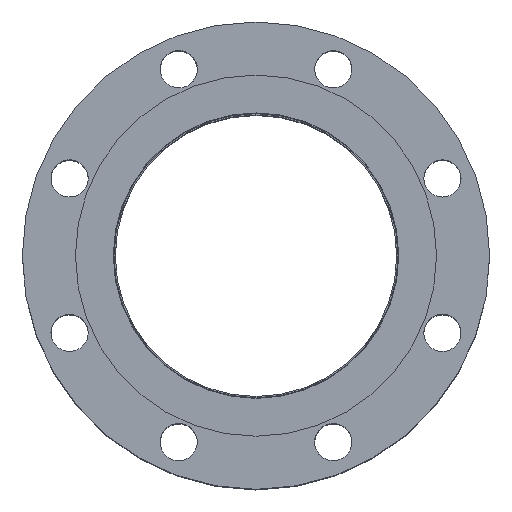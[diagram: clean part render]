
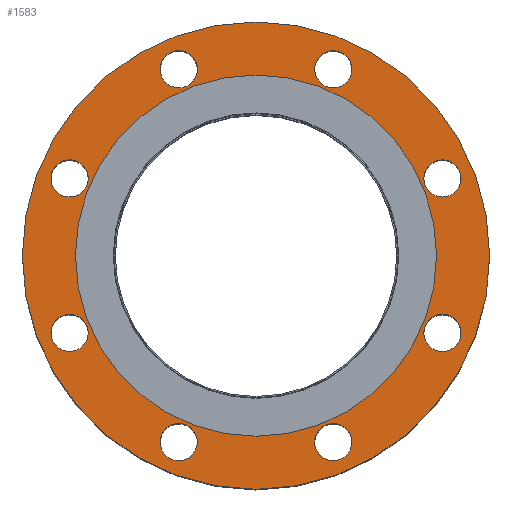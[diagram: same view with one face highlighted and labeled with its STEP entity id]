
A CAD part, top view. The second image highlights one B-rep face of the part: STEP entity #1583.
In plain terms, the highlighted planar face has unit normal (0, 0, 1).
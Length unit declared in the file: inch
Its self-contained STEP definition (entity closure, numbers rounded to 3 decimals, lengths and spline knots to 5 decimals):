
#84=FACE_BOUND('',#411,.T.);
#85=FACE_BOUND('',#412,.T.);
#86=FACE_BOUND('',#413,.T.);
#87=FACE_BOUND('',#414,.T.);
#88=FACE_BOUND('',#415,.T.);
#89=FACE_BOUND('',#416,.T.);
#90=FACE_BOUND('',#417,.T.);
#91=FACE_BOUND('',#418,.T.);
#92=FACE_BOUND('',#419,.T.);
#150=PLANE('',#1788);
#273=FACE_OUTER_BOUND('',#410,.T.);
#410=EDGE_LOOP('',(#1213));
#411=EDGE_LOOP('',(#1214));
#412=EDGE_LOOP('',(#1215));
#413=EDGE_LOOP('',(#1216));
#414=EDGE_LOOP('',(#1217));
#415=EDGE_LOOP('',(#1218));
#416=EDGE_LOOP('',(#1219));
#417=EDGE_LOOP('',(#1220));
#418=EDGE_LOOP('',(#1221));
#419=EDGE_LOOP('',(#1222));
#615=CIRCLE('',#1743,0.4375);
#617=CIRCLE('',#1746,0.4375);
#619=CIRCLE('',#1749,0.4375);
#621=CIRCLE('',#1752,0.4375);
#623=CIRCLE('',#1755,0.4375);
#625=CIRCLE('',#1758,0.4375);
#627=CIRCLE('',#1761,0.4375);
#629=CIRCLE('',#1764,0.4375);
#642=CIRCLE('',#1783,4.25);
#644=CIRCLE('',#1787,5.5);
#803=VERTEX_POINT('',#2758);
#805=VERTEX_POINT('',#2764);
#807=VERTEX_POINT('',#2770);
#809=VERTEX_POINT('',#2776);
#811=VERTEX_POINT('',#2782);
#813=VERTEX_POINT('',#2788);
#815=VERTEX_POINT('',#2794);
#817=VERTEX_POINT('',#2800);
#828=VERTEX_POINT('',#2832);
#830=VERTEX_POINT('',#2839);
#939=EDGE_CURVE('',#803,#803,#615,.T.);
#942=EDGE_CURVE('',#805,#805,#617,.T.);
#945=EDGE_CURVE('',#807,#807,#619,.T.);
#948=EDGE_CURVE('',#809,#809,#621,.T.);
#951=EDGE_CURVE('',#811,#811,#623,.T.);
#954=EDGE_CURVE('',#813,#813,#625,.T.);
#957=EDGE_CURVE('',#815,#815,#627,.T.);
#960=EDGE_CURVE('',#817,#817,#629,.T.);
#976=EDGE_CURVE('',#828,#828,#642,.T.);
#978=EDGE_CURVE('',#830,#830,#644,.T.);
#1213=ORIENTED_EDGE('',*,*,#978,.T.);
#1214=ORIENTED_EDGE('',*,*,#939,.T.);
#1215=ORIENTED_EDGE('',*,*,#942,.T.);
#1216=ORIENTED_EDGE('',*,*,#945,.T.);
#1217=ORIENTED_EDGE('',*,*,#948,.T.);
#1218=ORIENTED_EDGE('',*,*,#951,.T.);
#1219=ORIENTED_EDGE('',*,*,#954,.T.);
#1220=ORIENTED_EDGE('',*,*,#957,.T.);
#1221=ORIENTED_EDGE('',*,*,#960,.T.);
#1222=ORIENTED_EDGE('',*,*,#976,.T.);
#1583=ADVANCED_FACE('',(#273,#84,#85,#86,#87,#88,#89,#90,#91,#92),#150,
 .T.);
#1743=AXIS2_PLACEMENT_3D('',#2759,#2079,#2080);
#1746=AXIS2_PLACEMENT_3D('',#2765,#2086,#2087);
#1749=AXIS2_PLACEMENT_3D('',#2771,#2093,#2094);
#1752=AXIS2_PLACEMENT_3D('',#2777,#2100,#2101);
#1755=AXIS2_PLACEMENT_3D('',#2783,#2107,#2108);
#1758=AXIS2_PLACEMENT_3D('',#2789,#2114,#2115);
#1761=AXIS2_PLACEMENT_3D('',#2795,#2121,#2122);
#1764=AXIS2_PLACEMENT_3D('',#2801,#2128,#2129);
#1783=AXIS2_PLACEMENT_3D('',#2834,#2169,#2170);
#1787=AXIS2_PLACEMENT_3D('',#2840,#2177,#2178);
#1788=AXIS2_PLACEMENT_3D('',#2842,#2180,#2181);
#2079=DIRECTION('center_axis',(0.,0.,-1.));
#2080=DIRECTION('ref_axis',(0.707,-0.707,0.));
#2086=DIRECTION('center_axis',(0.,0.,-1.));
#2087=DIRECTION('ref_axis',(0.,-1.,0.));
#2093=DIRECTION('center_axis',(0.,0.,-1.));
#2094=DIRECTION('ref_axis',(-0.707,-0.707,0.));
#2100=DIRECTION('center_axis',(0.,0.,-1.));
#2101=DIRECTION('ref_axis',(-1.,0.,0.));
#2107=DIRECTION('center_axis',(0.,0.,-1.));
#2108=DIRECTION('ref_axis',(-0.707,0.707,0.));
#2114=DIRECTION('center_axis',(0.,0.,-1.));
#2115=DIRECTION('ref_axis',(0.,1.,0.));
#2121=DIRECTION('center_axis',(0.,0.,-1.));
#2122=DIRECTION('ref_axis',(0.707,0.707,0.));
#2128=DIRECTION('center_axis',(0.,0.,-1.));
#2129=DIRECTION('ref_axis',(1.,0.,0.));
#2169=DIRECTION('center_axis',(0.,0.,-1.));
#2170=DIRECTION('ref_axis',(0.,1.,0.));
#2177=DIRECTION('center_axis',(0.,0.,1.));
#2178=DIRECTION('ref_axis',(1.,0.,0.));
#2180=DIRECTION('center_axis',(0.,0.,1.));
#2181=DIRECTION('ref_axis',(1.,0.,0.));
#2758=CARTESIAN_POINT('',(1.50839,4.69779,0.47));
#2759=CARTESIAN_POINT('Origin',(1.81775,4.38843,0.47));
#2764=CARTESIAN_POINT('',(4.38843,2.25525,0.47));
#2765=CARTESIAN_POINT('Origin',(4.38843,1.81775,0.47));
#2770=CARTESIAN_POINT('',(4.69779,-1.50839,0.47));
#2771=CARTESIAN_POINT('Origin',(4.38843,-1.81775,0.47));
#2776=CARTESIAN_POINT('',(2.25525,-4.38843,0.47));
#2777=CARTESIAN_POINT('Origin',(1.81775,-4.38843,0.47));
#2782=CARTESIAN_POINT('',(-1.50839,-4.69779,0.47));
#2783=CARTESIAN_POINT('Origin',(-1.81775,-4.38843,0.47));
#2788=CARTESIAN_POINT('',(-4.38843,-2.25525,0.47));
#2789=CARTESIAN_POINT('Origin',(-4.38843,-1.81775,0.47));
#2794=CARTESIAN_POINT('',(-4.69779,1.50839,0.47));
#2795=CARTESIAN_POINT('Origin',(-4.38843,1.81775,0.47));
#2800=CARTESIAN_POINT('',(-2.25525,4.38843,0.47));
#2801=CARTESIAN_POINT('Origin',(-1.81775,4.38843,0.47));
#2832=CARTESIAN_POINT('',(0.,-4.25,0.47));
#2834=CARTESIAN_POINT('Origin',(0.,0.,0.47));
#2839=CARTESIAN_POINT('',(0.,-5.5,0.47));
#2840=CARTESIAN_POINT('Origin',(0.,0.,0.47));
#2842=CARTESIAN_POINT('Origin',(0.,3.36,0.47));
